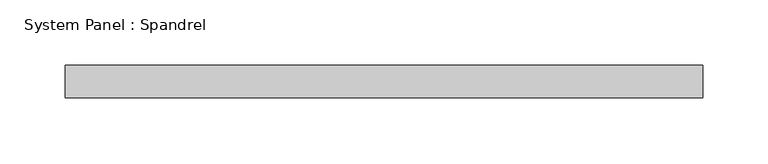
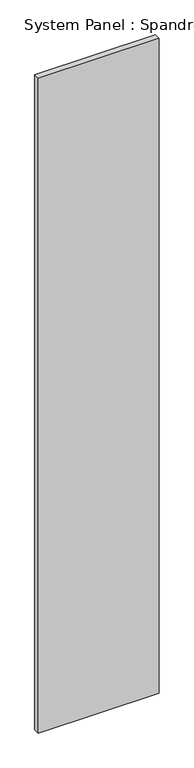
"""IFC4 building model written with IfcOpenShell, lengths in millimetres: plate geometry, System Panel : Spandrel."""

from ifc_helpers import new_model, si_unit, origin, origin_with_axes, place, context, project, spatial, polyline, outline, extrude, source, transform, mapped, element, save


def system_panel_spandrel_753e2d3e(model_context):
    return source(origin(), model_context, "Body", "SweptSolid", [
        extrude(outline(polyline([(243.9999997, 0.0), (-243.9999997, 0.0), (-243.9999997, 25.0), (243.9999997, 25.0), (243.9999997, 0.0)])), origin_with_axes(), (0.0, 0.0, 1.0), 2800.0),
    ])


if __name__ == "__main__":
    model = new_model("IFC4")
    model_context = context("Model", 3, world=origin())
    ifc_project = project(units=[si_unit("LENGTHUNIT", "METRE", prefix="MILLI")], contexts=[model_context])
    site = spatial("IfcSite", under=ifc_project)
    building = spatial("IfcBuilding", under=site)
    placement = place(None, origin())
    system_panel_spandrel_shape = system_panel_spandrel_753e2d3e(model_context)
    element("IfcPlate", 1, ObjectType="System Panel : Spandrel", at=placement, inside=building, context=model_context, shape_type="MappedRepresentation", body=[
        mapped(system_panel_spandrel_shape, transform((0.0, 0.0, 0.0), x_axis=(1.0, 0.0, 0.0), y_axis=(0.0, 1.0, 0.0), z_axis=(0.0, 0.0, 1.0))),
    ])
    save(model, "model.ifc")
